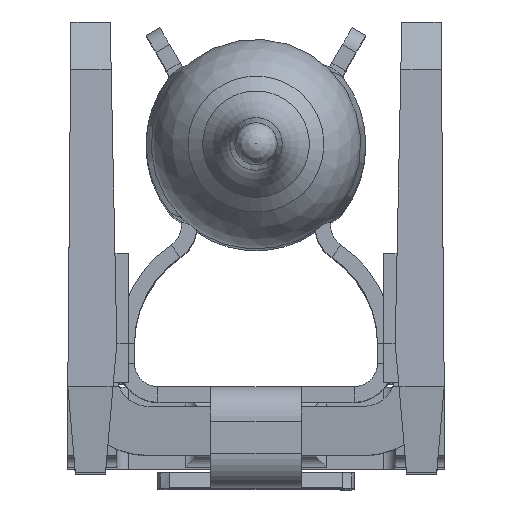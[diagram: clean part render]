
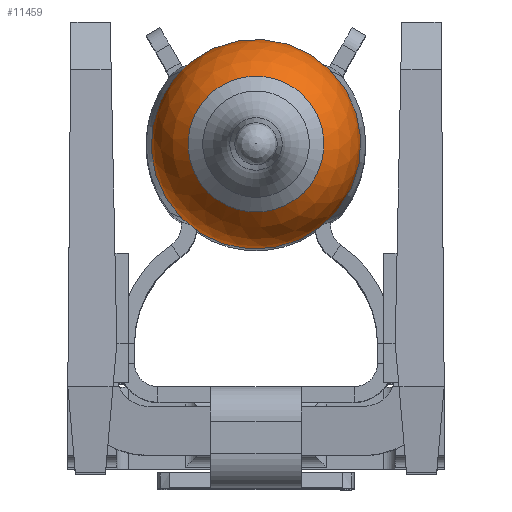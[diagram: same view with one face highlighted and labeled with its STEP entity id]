
A CAD part, top view. The second image highlights one B-rep face of the part: STEP entity #11459.
In plain terms, the highlighted spherical face has radius 2.675 mm.
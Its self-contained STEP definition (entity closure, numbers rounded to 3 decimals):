
#25=SPHERICAL_SURFACE('',#12421,2.675);
#1758=FACE_OUTER_BOUND('',#2388,.T.);
#2388=EDGE_LOOP('',(#10680,#10681,#10682,#10683,#10684,#10685,#10686));
#4844=CIRCLE('',#12419,2.614);
#4845=CIRCLE('',#12420,2.614);
#4846=CIRCLE('',#12422,1.734);
#4847=CIRCLE('',#12423,1.734);
#4848=CIRCLE('',#12424,2.675);
#4849=CIRCLE('',#12425,1.734);
#5854=VERTEX_POINT('',#21321);
#5855=VERTEX_POINT('',#21323);
#5856=VERTEX_POINT('',#21327);
#5857=VERTEX_POINT('',#21328);
#5858=VERTEX_POINT('',#21330);
#7465=EDGE_CURVE('',#5855,#5854,#4844,.T.);
#7466=EDGE_CURVE('',#5854,#5855,#4845,.T.);
#7467=EDGE_CURVE('',#5856,#5857,#4846,.T.);
#7468=EDGE_CURVE('',#5858,#5856,#4847,.T.);
#7469=EDGE_CURVE('',#5858,#5855,#4848,.T.);
#7470=EDGE_CURVE('',#5857,#5858,#4849,.T.);
#10680=ORIENTED_EDGE('',*,*,#7467,.F.);
#10681=ORIENTED_EDGE('',*,*,#7468,.F.);
#10682=ORIENTED_EDGE('',*,*,#7469,.T.);
#10683=ORIENTED_EDGE('',*,*,#7465,.T.);
#10684=ORIENTED_EDGE('',*,*,#7466,.T.);
#10685=ORIENTED_EDGE('',*,*,#7469,.F.);
#10686=ORIENTED_EDGE('',*,*,#7470,.F.);
#11459=ADVANCED_FACE('',(#1758),#25,.T.);
#12419=AXIS2_PLACEMENT_3D('',#21324,#15226,#15227);
#12420=AXIS2_PLACEMENT_3D('',#21325,#15228,#15229);
#12421=AXIS2_PLACEMENT_3D('',#21326,#15230,#15231);
#12422=AXIS2_PLACEMENT_3D('',#21329,#15232,#15233);
#12423=AXIS2_PLACEMENT_3D('',#21331,#15234,#15235);
#12424=AXIS2_PLACEMENT_3D('',#21332,#15236,#15237);
#12425=AXIS2_PLACEMENT_3D('',#21333,#15238,#15239);
#15226=DIRECTION('center_axis',(1.,0.,0.));
#15227=DIRECTION('ref_axis',(0.,1.,0.));
#15228=DIRECTION('center_axis',(1.,0.,0.));
#15229=DIRECTION('ref_axis',(0.,0.,-1.));
#15230=DIRECTION('center_axis',(1.,0.,0.));
#15231=DIRECTION('ref_axis',(0.,-1.,0.));
#15232=DIRECTION('center_axis',(1.,0.,0.));
#15233=DIRECTION('ref_axis',(0.,0.,-1.));
#15234=DIRECTION('center_axis',(1.,0.,0.));
#15235=DIRECTION('ref_axis',(0.,1.,0.));
#15236=DIRECTION('center_axis',(0.,0.,1.));
#15237=DIRECTION('ref_axis',(0.,1.,0.));
#15238=DIRECTION('center_axis',(1.,0.,0.));
#15239=DIRECTION('ref_axis',(0.,0.,-1.));
#21321=CARTESIAN_POINT('',(24.173,0.,2.614));
#21323=CARTESIAN_POINT('',(24.173,2.614,0.));
#21324=CARTESIAN_POINT('Origin',(24.173,0.,
0.));
#21325=CARTESIAN_POINT('Origin',(24.173,0.,
0.));
#21326=CARTESIAN_POINT('Origin',(24.741,0.,
0.));
#21327=CARTESIAN_POINT('',(26.778,0.,1.734));
#21328=CARTESIAN_POINT('',(26.778,-1.734,0.));
#21329=CARTESIAN_POINT('Origin',(26.778,0.,
0.));
#21330=CARTESIAN_POINT('',(26.778,1.734,0.));
#21331=CARTESIAN_POINT('Origin',(26.778,0.,
0.));
#21332=CARTESIAN_POINT('Origin',(24.741,0.,
0.));
#21333=CARTESIAN_POINT('Origin',(26.778,0.,
0.));
